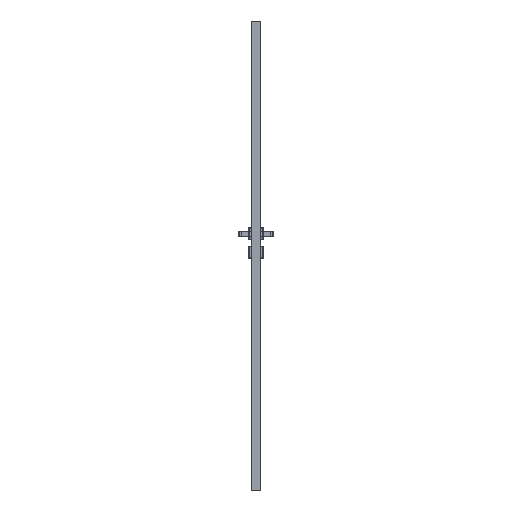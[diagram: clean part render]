
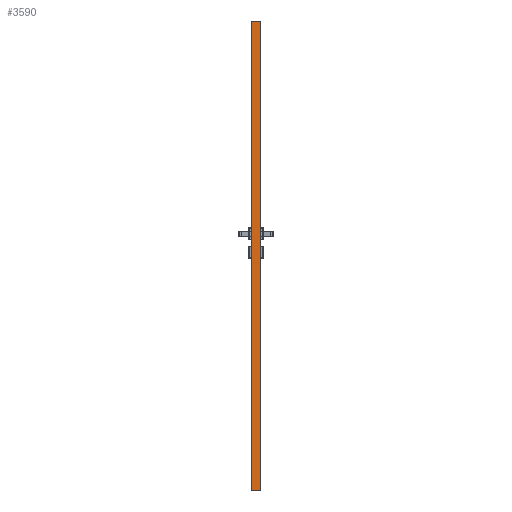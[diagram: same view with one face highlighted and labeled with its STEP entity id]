
A CAD part, left-side view. The second image highlights one B-rep face of the part: STEP entity #3590.
In plain terms, the highlighted planar face has unit normal (-1, 0, 0).
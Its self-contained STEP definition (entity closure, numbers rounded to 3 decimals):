
#3590=ADVANCED_FACE('',(#9582),#6924,.F.);
#6924=PLANE('',#67957);
#9582=FACE_OUTER_BOUND('',#12884,.T.);
#12884=EDGE_LOOP('',(#18821,#18822,#18823,#18824,#18825,#18826));
#18821=ORIENTED_EDGE('',*,*,#43257,.F.);
#18822=ORIENTED_EDGE('',*,*,#43251,.F.);
#18823=ORIENTED_EDGE('',*,*,#43213,.F.);
#18824=ORIENTED_EDGE('',*,*,#43255,.T.);
#18825=ORIENTED_EDGE('',*,*,#43258,.F.);
#18826=ORIENTED_EDGE('',*,*,#43088,.T.);
#36400=VERTEX_POINT('',#92288);
#36401=VERTEX_POINT('',#92290);
#36477=VERTEX_POINT('',#92531);
#36478=VERTEX_POINT('',#92533);
#36497=VERTEX_POINT('',#92611);
#36499=VERTEX_POINT('',#92617);
#43088=EDGE_CURVE('',#36401,#36400,#52690,.T.);
#43213=EDGE_CURVE('',#36477,#36478,#52800,.T.);
#43251=EDGE_CURVE('',#36478,#36497,#52835,.T.);
#43255=EDGE_CURVE('',#36477,#36499,#52839,.T.);
#43257=EDGE_CURVE('',#36497,#36400,#52841,.T.);
#43258=EDGE_CURVE('',#36401,#36499,#52842,.T.);
#52690=LINE('',#92289,#60590);
#52800=LINE('',#92532,#60700);
#52835=LINE('',#92610,#60735);
#52839=LINE('',#92619,#60739);
#52841=LINE('',#92622,#60741);
#52842=LINE('',#92623,#60742);
#60590=VECTOR('',#74441,1.);
#60700=VECTOR('',#74663,1.);
#60735=VECTOR('',#74746,1.);
#60739=VECTOR('',#74752,1.);
#60741=VECTOR('',#74756,1.);
#60742=VECTOR('',#74757,1.);
#67957=AXIS2_PLACEMENT_3D('',#92624,#74758,#74759);
#74441=DIRECTION('',(0.,-1.,0.));
#74663=DIRECTION('',(0.,-1.,0.));
#74746=DIRECTION('',(0.,0.,-1.));
#74752=DIRECTION('',(0.,0.,-1.));
#74756=DIRECTION('',(0.,0.894,-0.447));
#74757=DIRECTION('',(0.,0.894,0.447));
#74758=DIRECTION('',(1.,0.,0.));
#74759=DIRECTION('',(0.,1.,0.));
#92288=CARTESIAN_POINT('',(-309.,-38.,0.));
#92289=CARTESIAN_POINT('',(-309.,0.,0.));
#92290=CARTESIAN_POINT('',(-309.,-2.,0.));
#92531=CARTESIAN_POINT('',(-309.,0.,2017.));
#92532=CARTESIAN_POINT('',(-309.,-40.,2017.));
#92533=CARTESIAN_POINT('',(-309.,-40.,2017.));
#92610=CARTESIAN_POINT('',(-309.,-40.,2250.));
#92611=CARTESIAN_POINT('',(-309.,-40.,1.));
#92617=CARTESIAN_POINT('',(-309.,0.,1.));
#92619=CARTESIAN_POINT('',(-309.,0.,2250.));
#92622=CARTESIAN_POINT('',(-309.,-38.,0.));
#92623=CARTESIAN_POINT('',(-309.,0.,1.));
#92624=CARTESIAN_POINT('',(-309.,0.,2250.));
